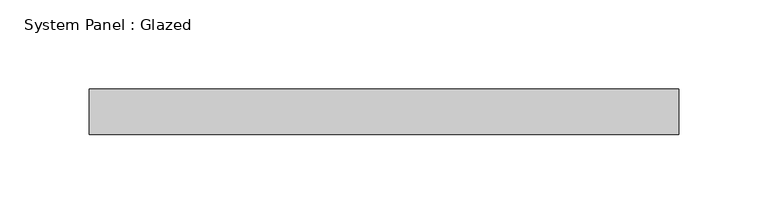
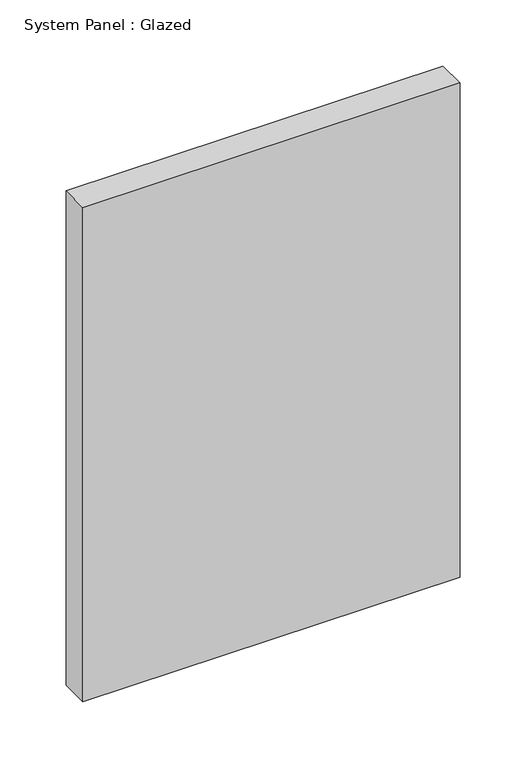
"""IFC4 building model written with IfcOpenShell, lengths in millimetres: plate geometry, System Panel : Glazed."""

from ifc_helpers import new_model, si_unit, origin, origin_with_axes, place, context, project, spatial, polyline, outline, extrude, source, transform, mapped, element, save


def system_panel_glazed_145da6ee(model_context):
    return source(origin(), model_context, "Body", "SweptSolid", [
        extrude(outline(polyline([(165.0363594, 19.05), (-165.0363594, 19.05), (-165.0363594, 44.45), (165.0363594, 44.45), (165.0363594, 19.05)])), origin_with_axes(), (0.0, 0.0, 1.0), 457.2),
    ])


if __name__ == "__main__":
    model = new_model("IFC4")
    model_context = context("Model", 3, world=origin())
    ifc_project = project(units=[si_unit("LENGTHUNIT", "METRE", prefix="MILLI")], contexts=[model_context])
    site = spatial("IfcSite", under=ifc_project)
    building = spatial("IfcBuilding", under=site)
    placement = place(None, origin())
    system_panel_glazed_shape = system_panel_glazed_145da6ee(model_context)
    element("IfcPlate", 1, ObjectType="System Panel : Glazed", at=placement, inside=building, context=model_context, shape_type="MappedRepresentation", body=[
        mapped(system_panel_glazed_shape, transform((0.0, 0.0, 0.0), x_axis=(1.0, 0.0, 0.0), y_axis=(0.0, 1.0, 0.0), z_axis=(0.0, 0.0, 1.0))),
    ])
    save(model, "model.ifc")
